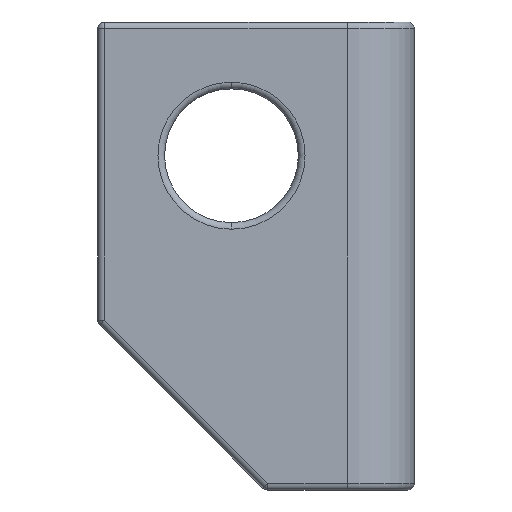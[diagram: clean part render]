
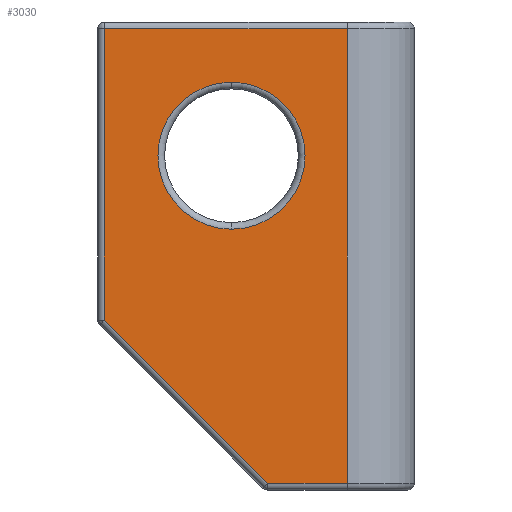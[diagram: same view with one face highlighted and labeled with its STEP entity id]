
A CAD part, left-side view. The second image highlights one B-rep face of the part: STEP entity #3030.
In plain terms, the highlighted planar face has unit normal (-1, 0, 0).
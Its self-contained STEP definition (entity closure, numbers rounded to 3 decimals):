
#79 = CARTESIAN_POINT ( 'NONE',  ( 0., 3., 21. ) ) ;
#130 = VERTEX_POINT ( 'NONE', #1122 ) ;
#237 = VERTEX_POINT ( 'NONE', #3141 ) ;
#253 = LINE ( 'NONE', #584, #1704 ) ;
#264 = ORIENTED_EDGE ( 'NONE', *, *, #363, .T. ) ;
#304 = EDGE_LOOP ( 'NONE', ( #748, #650 ) ) ;
#363 = EDGE_CURVE ( 'NONE', #130, #3376, #1788, .T. ) ;
#413 = DIRECTION ( 'NONE',  ( 0., -0.707, -0.707 ) ) ;
#443 = FACE_OUTER_BOUND ( 'NONE', #2936, .T. ) ;
#564 = ORIENTED_EDGE ( 'NONE', *, *, #2384, .T. ) ;
#584 = CARTESIAN_POINT ( 'NONE',  ( 0., 13.9, 21. ) ) ;
#650 = ORIENTED_EDGE ( 'NONE', *, *, #3119, .T. ) ;
#686 = VERTEX_POINT ( 'NONE', #2020 ) ;
#698 = CARTESIAN_POINT ( 'NONE',  ( 0., 8.2, 11.7 ) ) ;
#710 = VECTOR ( 'NONE', #1423, 1000. ) ;
#748 = ORIENTED_EDGE ( 'NONE', *, *, #1332, .T. ) ;
#846 = AXIS2_PLACEMENT_3D ( 'NONE', #1410, #1987, #3113 ) ;
#894 = VERTEX_POINT ( 'NONE', #2124 ) ;
#921 = CARTESIAN_POINT ( 'NONE',  ( 0., 8.2, 15. ) ) ;
#1030 = VECTOR ( 'NONE', #2871, 1000. ) ;
#1095 = DIRECTION ( 'NONE',  ( 1., 0., 0. ) ) ;
#1122 = CARTESIAN_POINT ( 'NONE',  ( 0., 6.576, 0.3 ) ) ;
#1198 = DIRECTION ( 'NONE',  ( 1., 0., 0. ) ) ;
#1244 = CIRCLE ( 'NONE', #2122, 3.3 ) ;
#1332 = EDGE_CURVE ( 'NONE', #2336, #237, #2276, .T. ) ;
#1410 = CARTESIAN_POINT ( 'NONE',  ( 0., 3., 21. ) ) ;
#1423 = DIRECTION ( 'NONE',  ( 0., 1., 0. ) ) ;
#1433 = EDGE_CURVE ( 'NONE', #686, #1577, #253, .T. ) ;
#1437 = DIRECTION ( 'NONE',  ( 0., 0., -1. ) ) ;
#1453 = PLANE ( 'NONE',  #846 ) ;
#1485 = ORIENTED_EDGE ( 'NONE', *, *, #2207, .T. ) ;
#1558 = EDGE_CURVE ( 'NONE', #894, #3376, #2226, .T. ) ;
#1577 = VERTEX_POINT ( 'NONE', #2359 ) ;
#1587 = ORIENTED_EDGE ( 'NONE', *, *, #1433, .T. ) ;
#1610 = CARTESIAN_POINT ( 'NONE',  ( 0., 3., 0.3 ) ) ;
#1704 = VECTOR ( 'NONE', #1437, 1000. ) ;
#1788 = LINE ( 'NONE', #1610, #2909 ) ;
#1926 = DIRECTION ( 'NONE',  ( 0., -1., 0. ) ) ;
#1937 = AXIS2_PLACEMENT_3D ( 'NONE', #2763, #1095, #2223 ) ;
#1973 = CARTESIAN_POINT ( 'NONE',  ( 0., 14.2, 20.7 ) ) ;
#1987 = DIRECTION ( 'NONE',  ( 1., 0., 0. ) ) ;
#2020 = CARTESIAN_POINT ( 'NONE',  ( 0., 13.9, 20.7 ) ) ;
#2122 = AXIS2_PLACEMENT_3D ( 'NONE', #921, #1198, #2584 ) ;
#2124 = CARTESIAN_POINT ( 'NONE',  ( 0., 3., 20.7 ) ) ;
#2129 = CARTESIAN_POINT ( 'NONE',  ( 0., 3., 0.3 ) ) ;
#2207 = EDGE_CURVE ( 'NONE', #894, #686, #2827, .T. ) ;
#2223 = DIRECTION ( 'NONE',  ( 0., 0., -1. ) ) ;
#2226 = LINE ( 'NONE', #79, #1030 ) ;
#2276 = CIRCLE ( 'NONE', #1937, 3.3 ) ;
#2336 = VERTEX_POINT ( 'NONE', #698 ) ;
#2359 = CARTESIAN_POINT ( 'NONE',  ( 0., 13.9, 7.624 ) ) ;
#2384 = EDGE_CURVE ( 'NONE', #1577, #130, #3360, .T. ) ;
#2442 = VECTOR ( 'NONE', #413, 1000. ) ;
#2584 = DIRECTION ( 'NONE',  ( 0., 0., -1. ) ) ;
#2763 = CARTESIAN_POINT ( 'NONE',  ( 0., 8.2, 15. ) ) ;
#2827 = LINE ( 'NONE', #1973, #710 ) ;
#2858 = ORIENTED_EDGE ( 'NONE', *, *, #1558, .F. ) ;
#2871 = DIRECTION ( 'NONE',  ( 0., 0., -1. ) ) ;
#2909 = VECTOR ( 'NONE', #1926, 1000. ) ;
#2936 = EDGE_LOOP ( 'NONE', ( #564, #264, #2858, #1485, #1587 ) ) ;
#3030 = ADVANCED_FACE ( 'NONE', ( #3177, #443 ), #1453, .F. ) ;
#3113 = DIRECTION ( 'NONE',  ( 0., 0., -1. ) ) ;
#3119 = EDGE_CURVE ( 'NONE', #237, #2336, #1244, .T. ) ;
#3141 = CARTESIAN_POINT ( 'NONE',  ( 0., 8.2, 18.3 ) ) ;
#3177 = FACE_BOUND ( 'NONE', #304, .T. ) ;
#3236 = CARTESIAN_POINT ( 'NONE',  ( 0., 15.138, 8.862 ) ) ;
#3360 = LINE ( 'NONE', #3236, #2442 ) ;
#3376 = VERTEX_POINT ( 'NONE', #2129 ) ;
